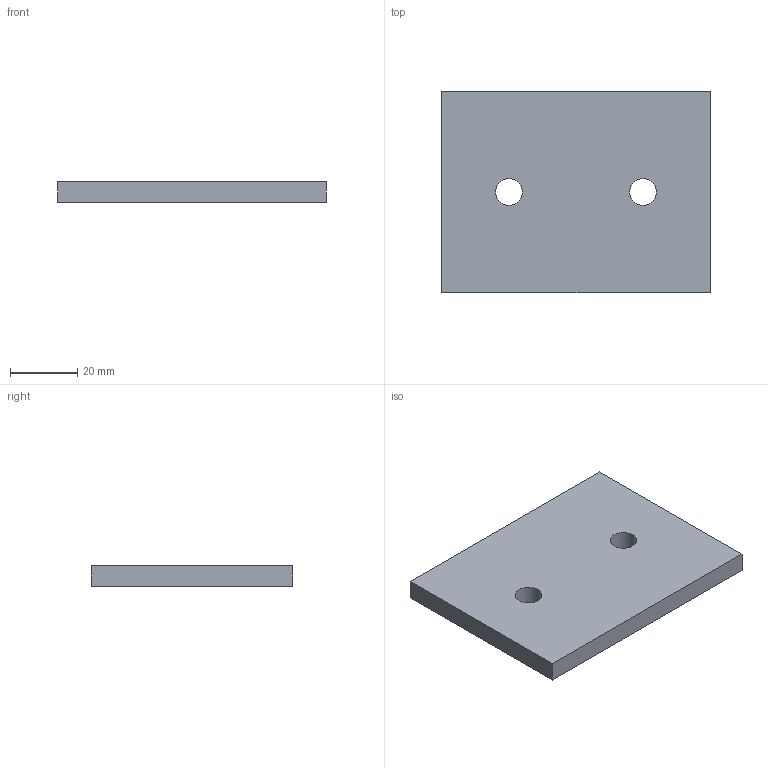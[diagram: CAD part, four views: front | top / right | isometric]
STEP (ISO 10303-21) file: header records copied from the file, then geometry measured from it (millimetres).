
FILE_DESCRIPTION(('FreeCAD Model'),'2;1');
FILE_NAME('Open CASCADE Shape Model','2026-10-13T21:00:26',('FreeCAD'),( 'FreeCAD'),'Open CASCADE STEP processor 7.8','FreeCAD','Unknown');
FILE_SCHEMA(('AUTOMOTIVE_DESIGN { 1 0 10303 214 1 1 1 1 }'));
Length unit declared in the file: millimetre
Products named in the file (1): Open CASCADE STEP translator 7.8 1
Bounding box: 80 x 60 x 6 mm (x, y, z)
Volume: 28196.8 mm3; surface area: 11380.5 mm2
Topology: 1 solids, 1 shells, 8 faces, 18 edges, 12 vertices
Faces by surface type: plane 6, cylinder 2
Full cylindrical faces by diameter (mm): 8 x2
Entity records: 244 total; most frequent: DIRECTION 40, CARTESIAN_POINT 39, ORIENTED_EDGE 36, EDGE_CURVE 18, LINE 14, VECTOR 14, AXIS2_PLACEMENT_3D 13, FACE_BOUND 12
